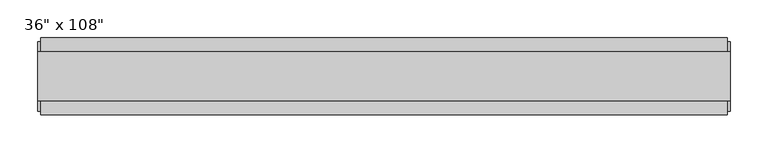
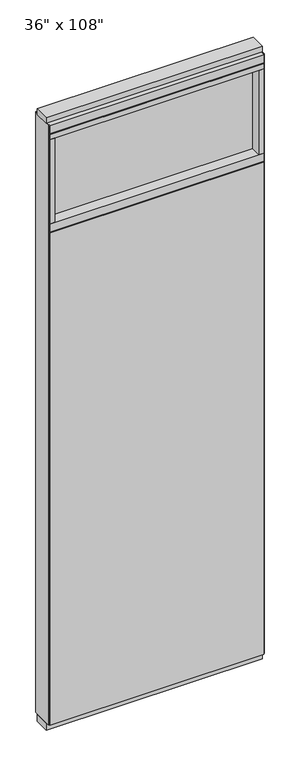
"""IFC4 building model written with IfcOpenShell, lengths in millimetres: furniture geometry."""

from ifc_helpers import new_model, si_unit, frame, origin, origin_with_axes, place, context, project, spatial, polyline, outline, extrude, source, transform, mapped, element, save


def furniture_3e3d7bb3(model_context):
    return source(origin(), model_context, "Body", "SweptSolid", [
        extrude(outline(polyline([(393.2264771, 46.2822784), (393.2264771, 33.5822784), (-513.2995229, 33.5822784), (-513.2995229, 46.2822784), (393.2264771, 46.2822784)])), frame((0.0, 0.0, 31.75), z_axis=(0.0, 0.0, 1.0), x_axis=(1.0, 0.0, 0.0)), (0.0, 0.0, 1.0), 2203.45),
        extrude(outline(polyline([(393.2264771, -55.3177216), (-513.2995229, -55.3177216), (-513.2995229, -42.6177216), (393.2264771, -42.6177216), (393.2264771, -55.3177216)])), frame((0.0, 0.0, 31.75), z_axis=(0.0, 0.0, 1.0), x_axis=(1.0, 0.0, 0.0)), (0.0, 0.0, 1.0), 2203.45),
        extrude(outline(polyline([(371.0014771, -9.5977216), (-491.0745229, -9.5977216), (-491.0745229, 0.5622784), (371.0014771, 0.5622784), (371.0014771, -9.5977216)])), frame((0.0, 0.0, 2276.475), z_axis=(0.0, 0.0, 1.0), x_axis=(1.0, 0.0, 0.0)), (0.0, 0.0, 1.0), 377.825),
        extrude(outline(polyline([(371.0014771, -55.3177216), (371.0014771, 46.2822784), (393.2264771, 46.2822784), (393.2264771, -55.3177216), (371.0014771, -55.3177216)])), frame((0.0, 0.0, 2276.475), z_axis=(0.0, 0.0, 1.0), x_axis=(1.0, 0.0, 0.0)), (0.0, 0.0, 1.0), 377.825),
        extrude(outline(polyline([(-55.3177216, 2240.153), (-55.3177216, 2276.475), (46.2822784, 2276.475), (46.2822784, 2240.153), (41.3292784, 2240.153), (41.3292784, 2235.2), (-50.3647216, 2235.2), (-50.3647216, 2240.153), (-55.3177216, 2240.153)])), frame((-513.2995229, 0.0, 0.0), z_axis=(1.0, 0.0, 0.0), x_axis=(0.0, 1.0, 0.0)), (0.0, 0.0, 1.0), 906.526),
        extrude(outline(polyline([(-491.0745229, -55.3177216), (-513.2995229, -55.3177216), (-513.2995229, 46.2822784), (-491.0745229, 46.2822784), (-491.0745229, -55.3177216)])), frame((0.0, 0.0, 2276.475), z_axis=(0.0, 0.0, 1.0), x_axis=(1.0, 0.0, 0.0)), (0.0, 0.0, 1.0), 377.825),
        extrude(outline(polyline([(397.1634771, 27.9942784), (397.1634771, -37.0297216), (-517.2365229, -37.0297216), (-517.2365229, 27.9942784), (397.1634771, 27.9942784)])), origin_with_axes(), (0.0, 0.0, 1.0), 31.75),
        extrude(outline(polyline([(-517.2365229, -37.0297216), (-517.2365229, 27.9942784), (397.1634771, 27.9942784), (397.1634771, -37.0297216), (-517.2365229, -37.0297216)])), frame((0.0, 0.0, 2717.8), z_axis=(0.0, 0.0, 1.0), x_axis=(1.0, 0.0, 0.0)), (0.0, 0.0, 1.0), 25.4),
        extrude(outline(polyline([(-55.3177216, 2681.478), (-55.3177216, 2717.8), (46.2822784, 2717.8), (46.2822784, 2681.478), (41.3292784, 2681.478), (41.3292784, 2676.525), (-50.3647216, 2676.525), (-50.3647216, 2681.478), (-55.3177216, 2681.478)])), frame((-513.2995229, 0.0, 0.0), z_axis=(1.0, 0.0, 0.0), x_axis=(0.0, 1.0, 0.0)), (0.0, 0.0, 1.0), 906.526),
        extrude(outline(polyline([(393.2264771, 46.2822784), (393.2264771, -55.3177216), (-513.2995229, -55.3177216), (-513.2995229, 46.2822784), (393.2264771, 46.2822784)])), frame((0.0, 0.0, 2654.3), z_axis=(0.0, 0.0, 1.0), x_axis=(1.0, 0.0, 0.0)), (0.0, 0.0, 1.0), 22.225),
        extrude(outline(polyline([(397.1634771, -50.3647216), (393.2264771, -50.3647216), (393.2264771, 41.3292784), (397.1634771, 41.3292784), (397.1634771, -50.3647216)])), frame((0.0, 0.0, 31.75), z_axis=(0.0, 0.0, 1.0), x_axis=(1.0, 0.0, 0.0)), (0.0, 0.0, 1.0), 2686.05),
        extrude(outline(polyline([(-517.2365229, -50.3647216), (-517.2365229, 41.3292784), (-513.2995229, 41.3292784), (-513.2995229, -50.3647216), (-517.2365229, -50.3647216)])), frame((0.0, 0.0, 31.75), z_axis=(0.0, 0.0, 1.0), x_axis=(1.0, 0.0, 0.0)), (0.0, 0.0, 1.0), 2686.05),
    ])


if __name__ == "__main__":
    model = new_model("IFC4")
    model_context = context("Model", 3, world=origin())
    ifc_project = project(units=[si_unit("LENGTHUNIT", "METRE", prefix="MILLI")], contexts=[model_context])
    site = spatial("IfcSite", under=ifc_project)
    building = spatial("IfcBuilding", under=site)
    placement = place(None, origin())
    furniture_shape = furniture_3e3d7bb3(model_context)
    element("IfcFurniture", 1, ObjectType="Haworth_Enclose_Wall_SolidTransom : 36\" x 108\"", at=placement, inside=building, context=model_context, shape_type="MappedRepresentation", body=[
        mapped(furniture_shape, transform((0.0, 0.0, 0.0), x_axis=(1.0, 0.0, 0.0), y_axis=(0.0, 1.0, 0.0), z_axis=(0.0, 0.0, 1.0))),
    ])
    save(model, "model.ifc")
